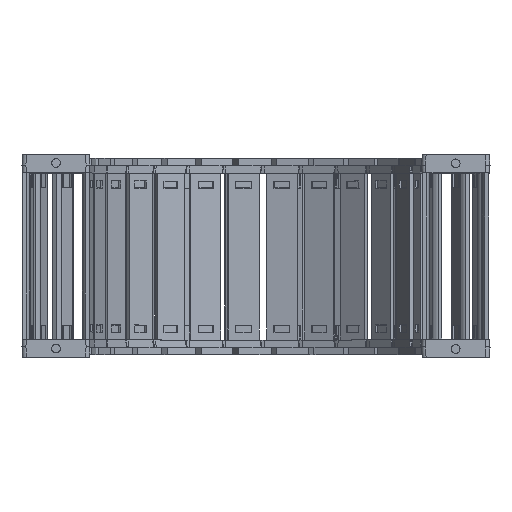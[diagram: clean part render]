
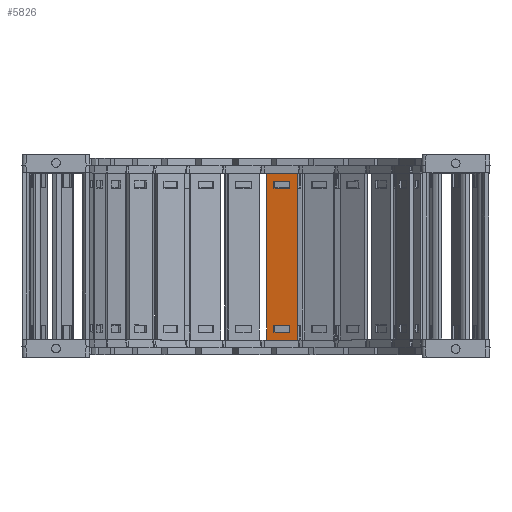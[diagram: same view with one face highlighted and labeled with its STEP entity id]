
A CAD part, top view. The second image highlights one B-rep face of the part: STEP entity #5826.
In plain terms, the highlighted planar face has unit normal (-0.182, 0, 0.983) as drawn and (0, 1, 0) by its records, which use the part's own axes.
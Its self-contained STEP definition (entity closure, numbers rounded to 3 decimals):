
#5195=DIRECTION('',(-1.,0.,0.));
#5196=VECTOR('',#5195,3.648);
#5197=CARTESIAN_POINT('',(66.17,1.5,4.075));
#5198=LINE('',#5197,#5196);
#5223=DIRECTION('',(1.,0.,0.));
#5224=VECTOR('',#5223,3.648);
#5225=CARTESIAN_POINT('',(62.522,1.5,-4.075));
#5226=LINE('',#5225,#5224);
#5260=DIRECTION('',(0.,0.,1.));
#5261=VECTOR('',#5260,8.15);
#5262=CARTESIAN_POINT('',(-7.142,1.5,-4.075));
#5263=LINE('',#5262,#5261);
#5281=DIRECTION('',(-1.,0.,0.));
#5282=VECTOR('',#5281,3.648);
#5283=CARTESIAN_POINT('',(-7.142,1.5,4.075));
#5284=LINE('',#5283,#5282);
#5295=DIRECTION('',(1.,0.,0.));
#5296=VECTOR('',#5295,84.9);
#5297=CARTESIAN_POINT('',(-14.76,1.5,-7.9));
#5298=LINE('',#5297,#5296);
#5302=DIRECTION('',(0.,0.,1.));
#5303=VECTOR('',#5302,8.15);
#5304=CARTESIAN_POINT('',(62.522,1.5,-4.075));
#5305=LINE('',#5304,#5303);
#5316=DIRECTION('',(0.,0.,-1.));
#5317=VECTOR('',#5316,15.8);
#5318=CARTESIAN_POINT('',(70.14,1.5,7.9));
#5319=LINE('',#5318,#5317);
#5369=DIRECTION('',(1.,0.,0.));
#5370=VECTOR('',#5369,84.9);
#5371=CARTESIAN_POINT('',(-14.76,1.5,7.9));
#5372=LINE('',#5371,#5370);
#5376=DIRECTION('',(0.,0.,1.));
#5377=VECTOR('',#5376,15.8);
#5378=CARTESIAN_POINT('',(-14.76,1.5,-7.9));
#5379=LINE('',#5378,#5377);
#5478=DIRECTION('',(0.,0.,-1.));
#5479=VECTOR('',#5478,8.15);
#5480=CARTESIAN_POINT('',(-10.79,1.5,4.075));
#5481=LINE('',#5480,#5479);
#5506=DIRECTION('',(1.,0.,0.));
#5507=VECTOR('',#5506,3.648);
#5508=CARTESIAN_POINT('',(-10.79,1.5,-4.075));
#5509=LINE('',#5508,#5507);
#5562=DIRECTION('',(0.,0.,1.));
#5563=VECTOR('',#5562,8.15);
#5564=CARTESIAN_POINT('',(66.17,1.5,-4.075));
#5565=LINE('',#5564,#5563);
#5581=CARTESIAN_POINT('',(66.17,1.5,4.075));
#5582=VERTEX_POINT('',#5581);
#5583=CARTESIAN_POINT('',(62.522,1.5,4.075));
#5584=VERTEX_POINT('',#5583);
#5592=CARTESIAN_POINT('',(70.14,1.5,7.9));
#5594=VERTEX_POINT('',#5592);
#5595=CARTESIAN_POINT('',(70.14,1.5,-7.9));
#5596=VERTEX_POINT('',#5595);
#5605=CARTESIAN_POINT('',(62.522,1.5,-4.075));
#5606=VERTEX_POINT('',#5605);
#5607=CARTESIAN_POINT('',(66.17,1.5,-4.075));
#5608=VERTEX_POINT('',#5607);
#5610=CARTESIAN_POINT('',(-14.76,1.5,7.9));
#5612=VERTEX_POINT('',#5610);
#5613=CARTESIAN_POINT('',(-14.76,1.5,-7.9));
#5614=VERTEX_POINT('',#5613);
#5625=CARTESIAN_POINT('',(-7.142,1.5,-4.075));
#5626=CARTESIAN_POINT('',(-7.142,1.5,4.075));
#5627=VERTEX_POINT('',#5625);
#5628=VERTEX_POINT('',#5626);
#5629=CARTESIAN_POINT('',(-10.79,1.5,-4.075));
#5630=VERTEX_POINT('',#5629);
#5631=CARTESIAN_POINT('',(-10.79,1.5,4.075));
#5632=VERTEX_POINT('',#5631);
#5796=CARTESIAN_POINT('',(101.88,1.5,10.061));
#5797=DIRECTION('',(0.,-1.,0.));
#5798=DIRECTION('',(0.,0.,-1.));
#5799=AXIS2_PLACEMENT_3D('',#5796,#5797,#5798);
#5800=PLANE('',#5799);
#5802=ORIENTED_EDGE('',*,*,#5801,.F.);
#5804=ORIENTED_EDGE('',*,*,#5803,.F.);
#5806=ORIENTED_EDGE('',*,*,#5805,.F.);
#5808=ORIENTED_EDGE('',*,*,#5807,.T.);
#5809=EDGE_LOOP('',(#5802,#5804,#5806,#5808));
#5810=FACE_OUTER_BOUND('',#5809,.F.);
#5811=ORIENTED_EDGE('',*,*,#5675,.T.);
#5812=ORIENTED_EDGE('',*,*,#5653,.F.);
#5814=ORIENTED_EDGE('',*,*,#5813,.F.);
#5815=ORIENTED_EDGE('',*,*,#5695,.F.);
#5816=EDGE_LOOP('',(#5811,#5812,#5814,#5815));
#5817=FACE_BOUND('',#5816,.F.);
#5818=ORIENTED_EDGE('',*,*,#5759,.F.);
#5820=ORIENTED_EDGE('',*,*,#5819,.F.);
#5822=ORIENTED_EDGE('',*,*,#5821,.F.);
#5823=ORIENTED_EDGE('',*,*,#5778,.F.);
#5824=EDGE_LOOP('',(#5818,#5820,#5822,#5823));
#5825=FACE_BOUND('',#5824,.F.);
#5826=ADVANCED_FACE('',(#5810,#5817,#5825),#5800,.F.);
#5653=EDGE_CURVE('',#5582,#5584,#5198,.T.);
#5675=EDGE_CURVE('',#5606,#5584,#5305,.T.);
#5695=EDGE_CURVE('',#5606,#5608,#5226,.T.);
#5759=EDGE_CURVE('',#5627,#5628,#5263,.T.);
#5778=EDGE_CURVE('',#5628,#5632,#5284,.T.);
#5801=EDGE_CURVE('',#5594,#5596,#5319,.T.);
#5803=EDGE_CURVE('',#5612,#5594,#5372,.T.);
#5805=EDGE_CURVE('',#5614,#5612,#5379,.T.);
#5807=EDGE_CURVE('',#5614,#5596,#5298,.T.);
#5813=EDGE_CURVE('',#5608,#5582,#5565,.T.);
#5819=EDGE_CURVE('',#5630,#5627,#5509,.T.);
#5821=EDGE_CURVE('',#5632,#5630,#5481,.T.);
